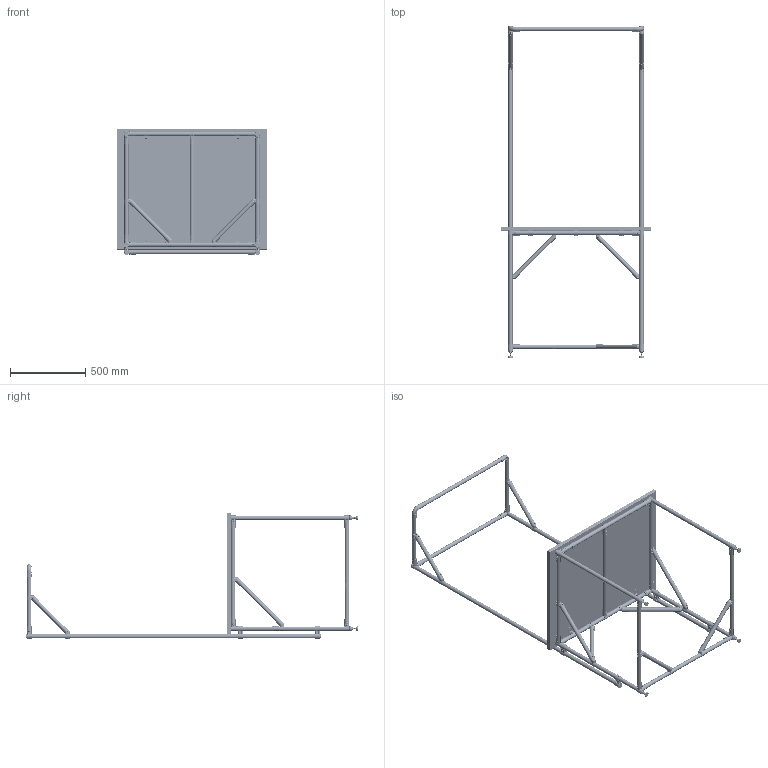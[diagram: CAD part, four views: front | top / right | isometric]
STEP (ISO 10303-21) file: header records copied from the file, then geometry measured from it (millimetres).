
FILE_DESCRIPTION (( 'STEP AP214' ), '1' );
FILE_NAME ('RSI-WSF-E-1000x800.STEP', '2026-09-02T10:48:58', ( 'Àëåêñåé' ), ( '' ), 'SwSTEP 2.0', 'SolidWorks 2022', '' );
FILE_SCHEMA (( 'AUTOMOTIVE_DESIGN' ));
Length unit declared in the file: millimetre
Products named in the file (18): PR-28X2-A_L=400 мм; Столешница 1000х800; PR-28X2-A_L=1950 мм; PR-28X2-A_L=800 мм; RSI-WSF-1000x800_Пример использования; RSI-DF1B; RSI-DF17B; RSI-WSF-E-1000x800; RSI-DF8B; PR-28X2-A_L=350 мм; f-110-s; RSI-DF15B; PR-28X2-A_L=390 мм; RSI-DF2B; PR-28X2-A_L=300 мм; RSI-FH1200LV2; PR-28X2-A_L=665 мм; RSI-DF14B
Assembly tree (74 placements, depth 3):
  RSI-WSF-E-1000x800
    PR-28X2-A_L=1950 мм  x2
    RSI-DF2B  x2
    f-110-s  x4
    PR-28X2-A_L=800 мм  x2
    PR-28X2-A_L=390 мм  x2
    RSI-DF14B  x4
    PR-28X2-A_L=300 мм  x2
    RSI-WSF-1000x800_Пример использования
      PR-28X2-A_L=800 мм  x7
      PR-28X2-A_L=665 мм  x5
      PR-28X2-A_L=400 мм  x2
      RSI-DF14B  x12
      RSI-DF15B  x4
      RSI-DF2B  x6
      Столешница 1000х800
      RSI-DF1B  x4
      PR-28X2-A_L=350 мм  x4
      RSI-FH1200LV2  x4
    RSI-DF8B  x4
    RSI-DF17B  x2
Bounding box: 1000 x 2203.36 x 835.89 mm (x, y, z)
Volume: 23878117.9 mm3; surface area: 5562842.2 mm2
Topology: 215 solids, 231 shells, 13430 faces, 34768 edges, 22496 vertices
Faces by surface type: cylinder 5320, plane 4898, bspline 1904, cone 716, torus 544, sphere 48
Full cylindrical faces by diameter (mm): 10 x4, 17 x4, 21 x4, 24 x26, 28 x30
Entity records: 149642 total; most frequent: CARTESIAN_POINT 91317, ORIENTED_EDGE 11736, DIRECTION 8705, EDGE_CURVE 5868, VERTEX_POINT 3813, AXIS2_PLACEMENT_3D 3235, EDGE_LOOP 2475, B_SPLINE_CURVE_WITH_KNOTS 2349
